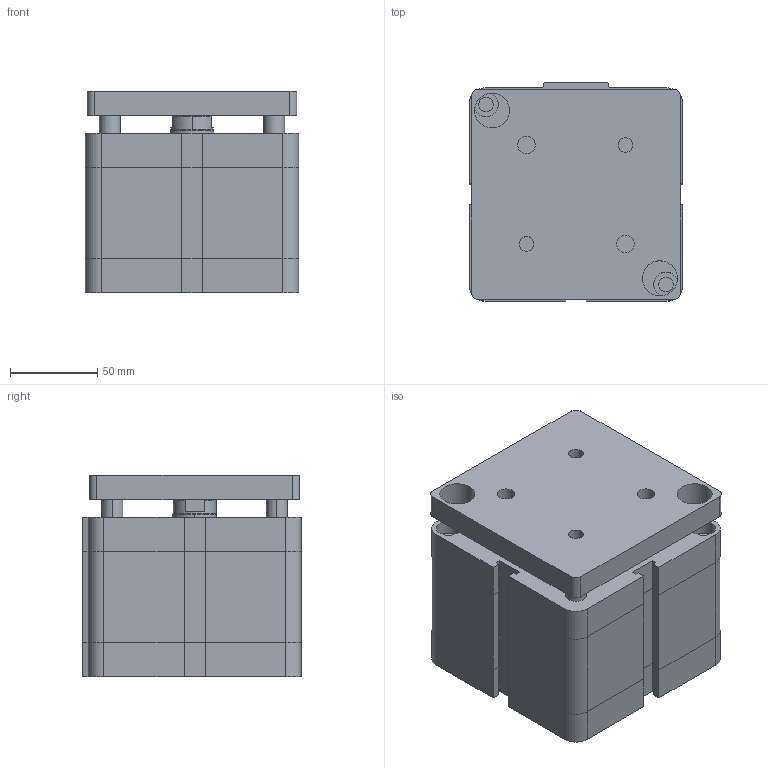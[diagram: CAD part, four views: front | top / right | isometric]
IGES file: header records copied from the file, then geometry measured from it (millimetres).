
Global section: file name: No Iges File Name specified; native system: Autodesk Inventor 2009; preprocessor: AutoDesk Inventor Iges Exporter R2009; author: maffial1; date: 20090420.201421; units: millimetre
Bounding box: 122 x 125 x 115.5 mm (x, y, z)
Volume: 1525479.8 mm3; surface area: 134957.3 mm2
Topology: 2 solids, 2 shells, 212 faces, 486 edges, 298 vertices
Faces by surface type: plane 111, bspline 67, cylinder 26, cone 8
